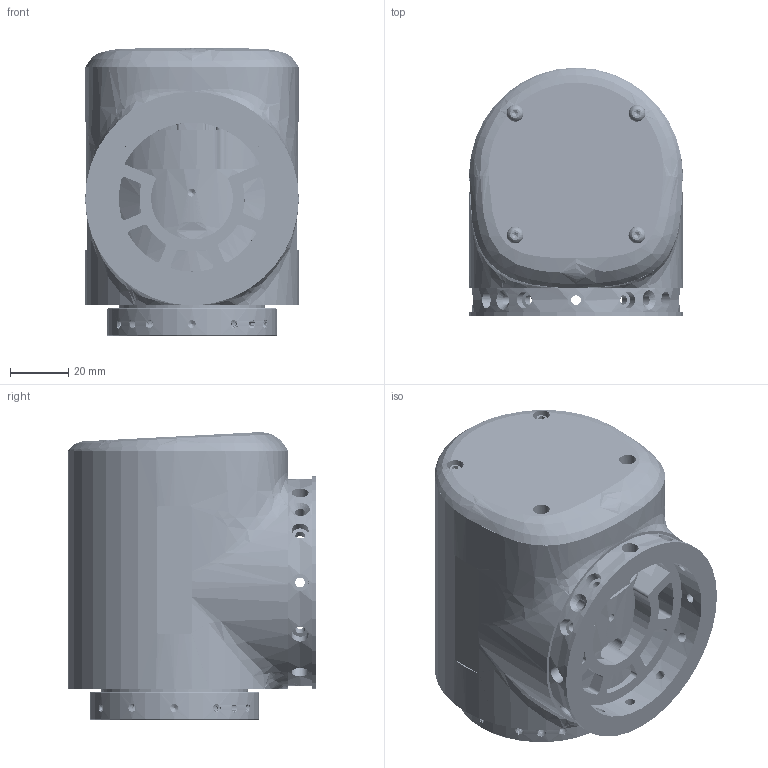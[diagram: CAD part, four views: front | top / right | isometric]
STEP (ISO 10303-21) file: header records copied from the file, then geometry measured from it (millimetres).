
FILE_DESCRIPTION (( 'STEP AP203' ), '1' );
FILE_NAME ('eRob70H｡ﾁ｡ﾁT-XX-18CX_V4_MC2B.CX.XX.step', '2025-03-20T11:29:48', ( 'Windows User' ), ( 'P R C' ), 'SwSTEP 2.0', 'SolidWorks 2021', '' );
FILE_SCHEMA (( 'CONFIG_CONTROL_DESIGN' ));
Products named in the file (1): eRob70H××T-XX-18CX_V4_MC2B.CX.XX
Bounding box: 73 x 85 x 98.46 mm (x, y, z)
Volume: 324883.8 mm3; surface area: 79866.1 mm2
Topology: 2 solids, 2 shells, 3731 faces, 10125 edges, 6520 vertices
Faces by surface type: plane 1983, cylinder 1135, bspline 386, cone 147, torus 58, sphere 22
Entity records: 201265 total; most frequent: CARTESIAN_POINT 112693, ORIENTED_EDGE 20058, DIRECTION 16260, EDGE_CURVE 10029, VERTEX_POINT 6516, VECTOR 6204, LINE 6204, AXIS2_PLACEMENT_3D 5028
